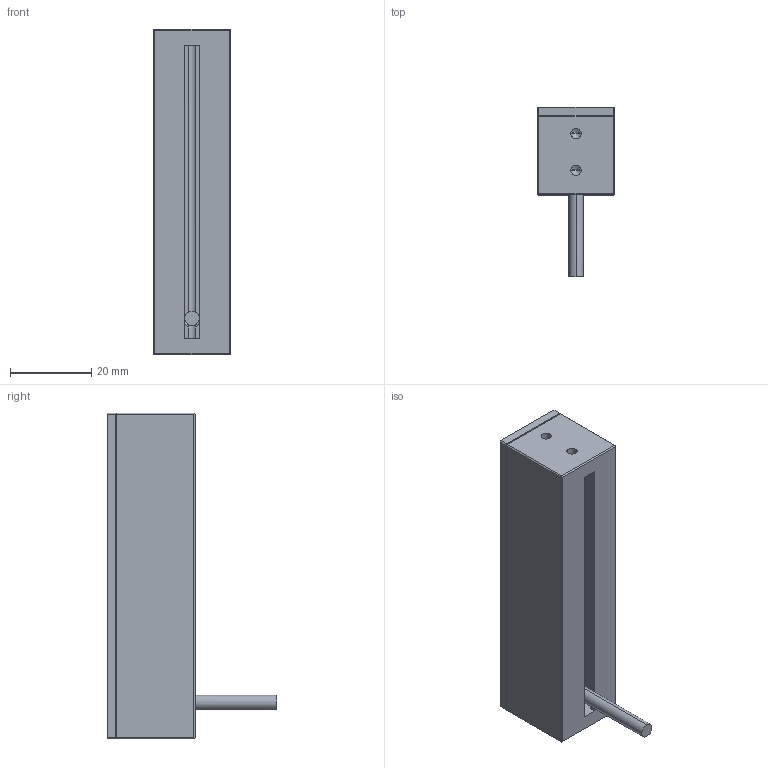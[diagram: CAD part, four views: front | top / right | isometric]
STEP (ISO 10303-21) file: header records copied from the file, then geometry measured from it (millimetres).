
FILE_DESCRIPTION((''),'2;1');
FILE_NAME('1_ASM','2020-11-17T',('win 10'),(''),'PRO/ENGINEER BY PARAMETRIC TECHNOLOGY CORPORATION, 2010100','PRO/ENGINEER BY PARAMETRIC TECHNOLOGY CORPORATION, 2010100','');
FILE_SCHEMA(('CONFIG_CONTROL_DESIGN'));
Length unit declared in the file: millimetre
Products named in the file (2): 2; 1_ASM
Assembly tree (1 placements, depth 2):
  1_ASM
    2
Bounding box: 19 x 41.5 x 80 mm (x, y, z)
Volume: 17857.2 mm3; surface area: 15624.6 mm2
Topology: 1 solids, 4 shells, 110 faces, 284 edges, 182 vertices
Faces by surface type: plane 80, cylinder 18, cone 12
Entity records: 3366 total; most frequent: CARTESIAN_POINT 640, ORIENTED_EDGE 552, DIRECTION 534, EDGE_CURVE 276, VECTOR 228, LINE 228, VERTEX_POINT 182, AXIS2_PLACEMENT_3D 153
